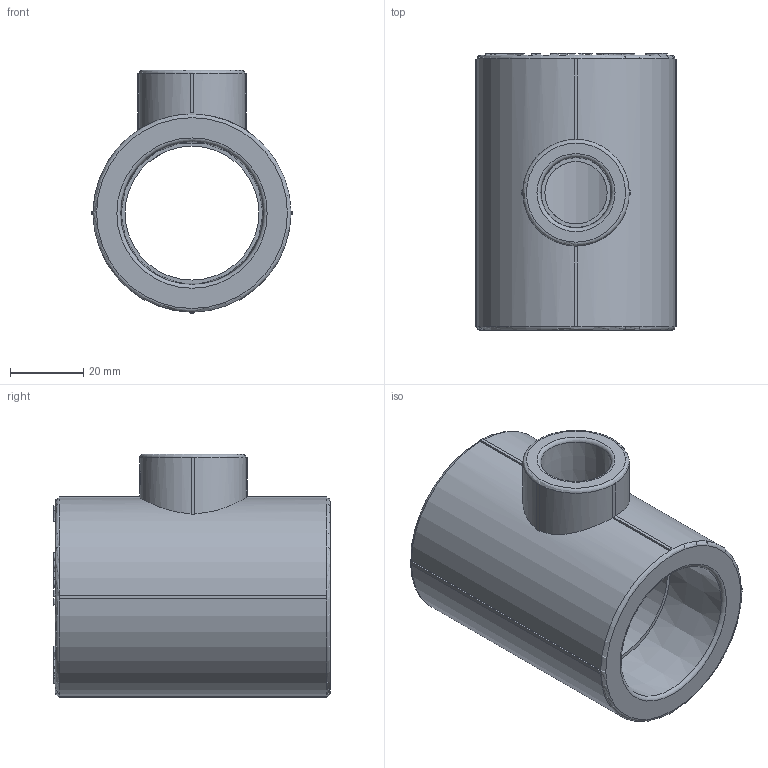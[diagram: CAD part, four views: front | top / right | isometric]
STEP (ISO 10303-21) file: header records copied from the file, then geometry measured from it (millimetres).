
FILE_DESCRIPTION(('STEP AP203'), '1');
FILE_NAME('ÂÐ.752241.060 - VTp.735.0.040020040', '', ('UNSPECIFIED'), ('UNSPECIFIED'), 'C3D Converter', 'C3D Toolkit', '');
FILE_SCHEMA(('CONFIG_CONTROL_DESIGN'));
Length unit declared in the file: millimetre
Products named in the file (1): ВР.752241.060
Bounding box: 55 x 75.5 x 66.5 mm (x, y, z)
Volume: 90582.3 mm3; surface area: 26255.8 mm2
Topology: 1 solids, 1 shells, 1113 faces, 3121 edges, 2072 vertices
Faces by surface type: extrusion 652, plane 417, cylinder 35, torus 6, cone 3
Full cylindrical faces by diameter (mm): 6 x1, 17 x1, 36.5 x1
Entity records: 40850 total; most frequent: CARTESIAN_POINT 15578, ORIENTED_EDGE 6218, DIRECTION 3129, EDGE_CURVE 3109, VECTOR 2115, VERTEX_POINT 2072, B_SPLINE_CURVE_WITH_KNOTS 1962, LINE 1463
